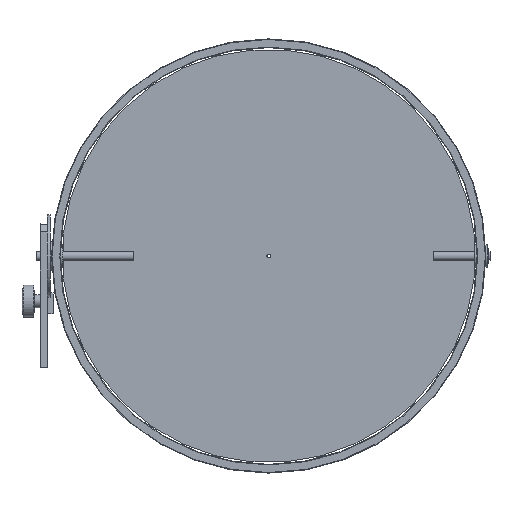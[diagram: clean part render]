
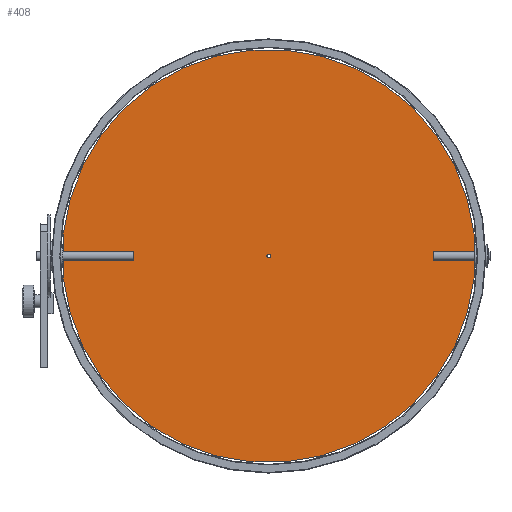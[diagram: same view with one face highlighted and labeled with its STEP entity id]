
A CAD part, left-side view. The second image highlights one B-rep face of the part: STEP entity #408.
In plain terms, the highlighted planar face has unit normal (-1, 0, 0).
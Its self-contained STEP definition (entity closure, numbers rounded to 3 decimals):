
#147=FACE_BOUND('',#566,.T.);
#148=FACE_BOUND('',#567,.T.);
#149=FACE_BOUND('',#568,.T.);
#150=FACE_BOUND('',#569,.T.);
#151=FACE_BOUND('',#570,.T.);
#152=FACE_BOUND('',#571,.T.);
#153=FACE_BOUND('',#572,.T.);
#154=FACE_BOUND('',#573,.T.);
#321=CIRCLE('',#1283,352.);
#322=CIRCLE('',#1286,3.);
#324=CIRCLE('',#1289,3.);
#326=CIRCLE('',#1292,3.);
#328=CIRCLE('',#1295,3.);
#330=CIRCLE('',#1298,3.);
#332=CIRCLE('',#1301,3.);
#335=CIRCLE('',#1305,352.);
#336=CIRCLE('',#1307,3.);
#408=ADVANCED_FACE('',(#147,#148,#149,#150,#151,#152,#153,#154),#487,.T.);
#487=PLANE('',#1310);
#566=EDGE_LOOP('',(#750,#751,#752,#753));
#567=EDGE_LOOP('',(#754));
#568=EDGE_LOOP('',(#755));
#569=EDGE_LOOP('',(#756));
#570=EDGE_LOOP('',(#757));
#571=EDGE_LOOP('',(#758));
#572=EDGE_LOOP('',(#759));
#573=EDGE_LOOP('',(#760));
#750=ORIENTED_EDGE('',*,*,#1096,.T.);
#751=ORIENTED_EDGE('',*,*,#1075,.T.);
#752=ORIENTED_EDGE('',*,*,#1079,.T.);
#753=ORIENTED_EDGE('',*,*,#1082,.T.);
#754=ORIENTED_EDGE('',*,*,#1093,.T.);
#755=ORIENTED_EDGE('',*,*,#1091,.F.);
#756=ORIENTED_EDGE('',*,*,#1089,.F.);
#757=ORIENTED_EDGE('',*,*,#1087,.F.);
#758=ORIENTED_EDGE('',*,*,#1085,.F.);
#759=ORIENTED_EDGE('',*,*,#1083,.F.);
#760=ORIENTED_EDGE('',*,*,#1097,.T.);
#968=VERTEX_POINT('',#1825);
#969=VERTEX_POINT('',#1827);
#971=VERTEX_POINT('',#1833);
#973=VERTEX_POINT('',#1839);
#974=VERTEX_POINT('',#1843);
#976=VERTEX_POINT('',#1848);
#978=VERTEX_POINT('',#1853);
#980=VERTEX_POINT('',#1858);
#982=VERTEX_POINT('',#1863);
#984=VERTEX_POINT('',#1868);
#986=VERTEX_POINT('',#1876);
#1075=EDGE_CURVE('',#969,#968,#1198,.T.);
#1079=EDGE_CURVE('',#968,#971,#321,.T.);
#1082=EDGE_CURVE('',#971,#973,#1203,.T.);
#1083=EDGE_CURVE('',#974,#974,#322,.T.);
#1085=EDGE_CURVE('',#976,#976,#324,.T.);
#1087=EDGE_CURVE('',#978,#978,#326,.T.);
#1089=EDGE_CURVE('',#980,#980,#328,.T.);
#1091=EDGE_CURVE('',#982,#982,#330,.T.);
#1093=EDGE_CURVE('',#984,#984,#332,.T.);
#1096=EDGE_CURVE('',#973,#969,#335,.T.);
#1097=EDGE_CURVE('',#986,#986,#336,.T.);
#1198=LINE('',#1826,#1240);
#1203=LINE('',#1840,#1245);
#1240=VECTOR('',#1450,1.);
#1245=VECTOR('',#1463,1.);
#1283=AXIS2_PLACEMENT_3D('',#1834,#1457,#1458);
#1286=AXIS2_PLACEMENT_3D('',#1842,#1466,#1467);
#1289=AXIS2_PLACEMENT_3D('',#1847,#1472,#1473);
#1292=AXIS2_PLACEMENT_3D('',#1852,#1478,#1479);
#1295=AXIS2_PLACEMENT_3D('',#1857,#1484,#1485);
#1298=AXIS2_PLACEMENT_3D('',#1862,#1490,#1491);
#1301=AXIS2_PLACEMENT_3D('',#1867,#1496,#1497);
#1305=AXIS2_PLACEMENT_3D('',#1873,#1504,#1505);
#1307=AXIS2_PLACEMENT_3D('',#1875,#1508,#1509);
#1310=AXIS2_PLACEMENT_3D('',#1880,#1514,#1515);
#1450=DIRECTION('',(0.,0.,1.));
#1457=DIRECTION('',(-1.,0.,0.));
#1458=DIRECTION('',(0.,0.,1.));
#1463=DIRECTION('',(0.,0.,-1.));
#1466=DIRECTION('',(-1.,0.,0.));
#1467=DIRECTION('',(0.,0.,1.));
#1472=DIRECTION('',(-1.,0.,0.));
#1473=DIRECTION('',(0.,0.,1.));
#1478=DIRECTION('',(-1.,0.,0.));
#1479=DIRECTION('',(0.,0.,1.));
#1484=DIRECTION('',(-1.,0.,0.));
#1485=DIRECTION('',(0.,0.,1.));
#1490=DIRECTION('',(-1.,0.,0.));
#1491=DIRECTION('',(0.,0.,1.));
#1496=DIRECTION('',(1.,0.,0.));
#1497=DIRECTION('',(0.,0.,1.));
#1504=DIRECTION('',(-1.,0.,0.));
#1505=DIRECTION('',(0.,0.,1.));
#1508=DIRECTION('',(1.,0.,0.));
#1509=DIRECTION('',(0.,0.,1.));
#1514=DIRECTION('',(-1.,0.,0.));
#1515=DIRECTION('',(0.,0.,1.));
#1825=CARTESIAN_POINT('',(-1.2,-459.,162.47));
#1826=CARTESIAN_POINT('',(-1.2,-459.,87.53));
#1827=CARTESIAN_POINT('',(-1.2,-459.,87.53));
#1833=CARTESIAN_POINT('',(-1.2,241.,162.47));
#1834=CARTESIAN_POINT('',(-1.2,-109.,125.));
#1839=CARTESIAN_POINT('',(-1.2,241.,87.53));
#1840=CARTESIAN_POINT('',(-1.2,241.,162.47));
#1842=CARTESIAN_POINT('',(-1.2,-109.,125.));
#1843=CARTESIAN_POINT('',(-1.2,-109.,128.));
#1847=CARTESIAN_POINT('',(-1.2,136.,125.));
#1848=CARTESIAN_POINT('',(-1.2,136.,128.));
#1852=CARTESIAN_POINT('',(-1.2,161.,125.));
#1853=CARTESIAN_POINT('',(-1.2,161.,128.));
#1857=CARTESIAN_POINT('',(-1.2,186.,125.));
#1858=CARTESIAN_POINT('',(-1.2,186.,128.));
#1862=CARTESIAN_POINT('',(-1.2,211.,125.));
#1863=CARTESIAN_POINT('',(-1.2,211.,128.));
#1867=CARTESIAN_POINT('',(-1.2,-404.,125.));
#1868=CARTESIAN_POINT('',(-1.2,-404.,128.));
#1873=CARTESIAN_POINT('',(-1.2,-109.,125.));
#1875=CARTESIAN_POINT('',(-1.2,-429.,125.));
#1876=CARTESIAN_POINT('',(-1.2,-429.,128.));
#1880=CARTESIAN_POINT('',(-1.2,-109.,125.));
